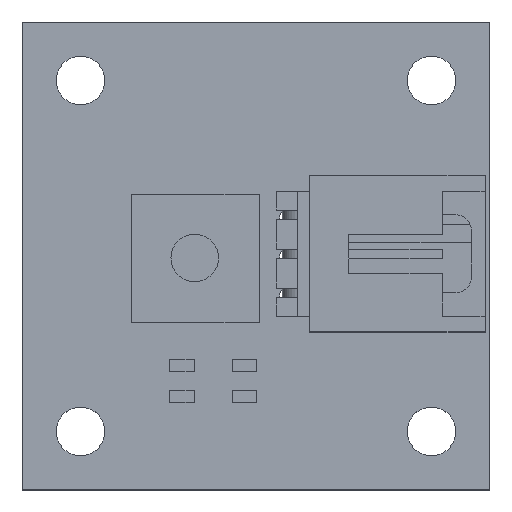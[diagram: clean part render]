
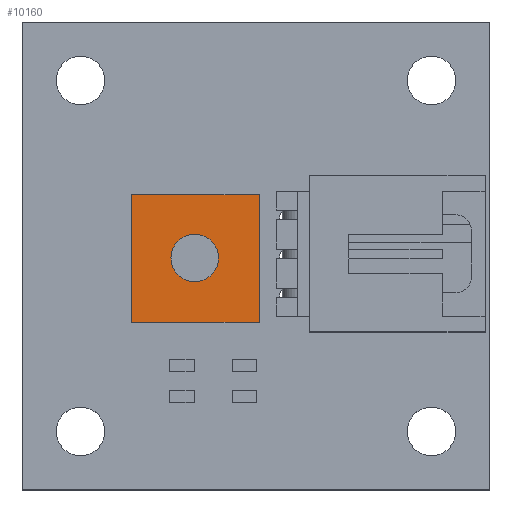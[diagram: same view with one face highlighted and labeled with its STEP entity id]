
A CAD part, top view. The second image highlights one B-rep face of the part: STEP entity #10160.
In plain terms, the highlighted planar face has unit normal (0, 0, 1).
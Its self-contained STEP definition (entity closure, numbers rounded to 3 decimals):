
#9846 = VERTEX_POINT('',#9847);
#9847 = CARTESIAN_POINT('',(-4.15,4.15,4.6));
#9854 = PLANE('',#9855);
#9855 = AXIS2_PLACEMENT_3D('',#9856,#9857,#9858);
#9856 = CARTESIAN_POINT('',(-4.15,4.15,0.));
#9857 = DIRECTION('',(0.,1.,0.));
#9858 = DIRECTION('',(1.,0.,0.));
#9866 = PLANE('',#9867);
#9867 = AXIS2_PLACEMENT_3D('',#9868,#9869,#9870);
#9868 = CARTESIAN_POINT('',(-4.15,-4.15,0.));
#9869 = DIRECTION('',(-1.,0.,0.));
#9870 = DIRECTION('',(0.,1.,0.));
#9878 = EDGE_CURVE('',#9846,#9879,#9881,.T.);
#9879 = VERTEX_POINT('',#9880);
#9880 = CARTESIAN_POINT('',(4.15,4.15,4.6));
#9881 = SURFACE_CURVE('',#9882,(#9886,#9893),.PCURVE_S1.);
#9882 = LINE('',#9883,#9884);
#9883 = CARTESIAN_POINT('',(-4.15,4.15,4.6));
#9884 = VECTOR('',#9885,1.);
#9885 = DIRECTION('',(1.,0.,0.));
#9886 = PCURVE('',#9854,#9887);
#9887 = DEFINITIONAL_REPRESENTATION('',(#9888),#9892);
#9888 = LINE('',#9889,#9890);
#9889 = CARTESIAN_POINT('',(0.,-4.6));
#9890 = VECTOR('',#9891,1.);
#9891 = DIRECTION('',(1.,0.));
#9892 = ( GEOMETRIC_REPRESENTATION_CONTEXT(2) 
PARAMETRIC_REPRESENTATION_CONTEXT() REPRESENTATION_CONTEXT('2D SPACE',''
  ) );
#9893 = PCURVE('',#9894,#9899);
#9894 = PLANE('',#9895);
#9895 = AXIS2_PLACEMENT_3D('',#9896,#9897,#9898);
#9896 = CARTESIAN_POINT('',(-4.15,4.15,4.6));
#9897 = DIRECTION('',(0.,0.,1.));
#9898 = DIRECTION('',(1.,0.,0.));
#9899 = DEFINITIONAL_REPRESENTATION('',(#9900),#9904);
#9900 = LINE('',#9901,#9902);
#9901 = CARTESIAN_POINT('',(0.,0.));
#9902 = VECTOR('',#9903,1.);
#9903 = DIRECTION('',(1.,0.));
#9904 = ( GEOMETRIC_REPRESENTATION_CONTEXT(2) 
PARAMETRIC_REPRESENTATION_CONTEXT() REPRESENTATION_CONTEXT('2D SPACE',''
  ) );
#9922 = PLANE('',#9923);
#9923 = AXIS2_PLACEMENT_3D('',#9924,#9925,#9926);
#9924 = CARTESIAN_POINT('',(4.15,4.15,0.));
#9925 = DIRECTION('',(1.,0.,0.));
#9926 = DIRECTION('',(0.,-1.,0.));
#9964 = EDGE_CURVE('',#9879,#9965,#9967,.T.);
#9965 = VERTEX_POINT('',#9966);
#9966 = CARTESIAN_POINT('',(4.15,-4.15,4.6));
#9967 = SURFACE_CURVE('',#9968,(#9972,#9979),.PCURVE_S1.);
#9968 = LINE('',#9969,#9970);
#9969 = CARTESIAN_POINT('',(4.15,4.15,4.6));
#9970 = VECTOR('',#9971,1.);
#9971 = DIRECTION('',(0.,-1.,0.));
#9972 = PCURVE('',#9922,#9973);
#9973 = DEFINITIONAL_REPRESENTATION('',(#9974),#9978);
#9974 = LINE('',#9975,#9976);
#9975 = CARTESIAN_POINT('',(0.,-4.6));
#9976 = VECTOR('',#9977,1.);
#9977 = DIRECTION('',(1.,0.));
#9978 = ( GEOMETRIC_REPRESENTATION_CONTEXT(2) 
PARAMETRIC_REPRESENTATION_CONTEXT() REPRESENTATION_CONTEXT('2D SPACE',''
  ) );
#9979 = PCURVE('',#9894,#9980);
#9980 = DEFINITIONAL_REPRESENTATION('',(#9981),#9985);
#9981 = LINE('',#9982,#9983);
#9982 = CARTESIAN_POINT('',(8.3,0.));
#9983 = VECTOR('',#9984,1.);
#9984 = DIRECTION('',(0.,-1.));
#9985 = ( GEOMETRIC_REPRESENTATION_CONTEXT(2) 
PARAMETRIC_REPRESENTATION_CONTEXT() REPRESENTATION_CONTEXT('2D SPACE',''
  ) );
#10003 = PLANE('',#10004);
#10004 = AXIS2_PLACEMENT_3D('',#10005,#10006,#10007);
#10005 = CARTESIAN_POINT('',(4.15,-4.15,0.));
#10006 = DIRECTION('',(0.,-1.,0.));
#10007 = DIRECTION('',(-1.,0.,0.));
#10040 = EDGE_CURVE('',#9965,#10041,#10043,.T.);
#10041 = VERTEX_POINT('',#10042);
#10042 = CARTESIAN_POINT('',(-4.15,-4.15,4.6));
#10043 = SURFACE_CURVE('',#10044,(#10048,#10055),.PCURVE_S1.);
#10044 = LINE('',#10045,#10046);
#10045 = CARTESIAN_POINT('',(4.15,-4.15,4.6));
#10046 = VECTOR('',#10047,1.);
#10047 = DIRECTION('',(-1.,0.,0.));
#10048 = PCURVE('',#10003,#10049);
#10049 = DEFINITIONAL_REPRESENTATION('',(#10050),#10054);
#10050 = LINE('',#10051,#10052);
#10051 = CARTESIAN_POINT('',(0.,-4.6));
#10052 = VECTOR('',#10053,1.);
#10053 = DIRECTION('',(1.,0.));
#10054 = ( GEOMETRIC_REPRESENTATION_CONTEXT(2) 
PARAMETRIC_REPRESENTATION_CONTEXT() REPRESENTATION_CONTEXT('2D SPACE',''
  ) );
#10055 = PCURVE('',#9894,#10056);
#10056 = DEFINITIONAL_REPRESENTATION('',(#10057),#10061);
#10057 = LINE('',#10058,#10059);
#10058 = CARTESIAN_POINT('',(8.3,-8.3));
#10059 = VECTOR('',#10060,1.);
#10060 = DIRECTION('',(-1.,0.));
#10061 = ( GEOMETRIC_REPRESENTATION_CONTEXT(2) 
PARAMETRIC_REPRESENTATION_CONTEXT() REPRESENTATION_CONTEXT('2D SPACE',''
  ) );
#10111 = EDGE_CURVE('',#10041,#9846,#10112,.T.);
#10112 = SURFACE_CURVE('',#10113,(#10117,#10124),.PCURVE_S1.);
#10113 = LINE('',#10114,#10115);
#10114 = CARTESIAN_POINT('',(-4.15,-4.15,4.6));
#10115 = VECTOR('',#10116,1.);
#10116 = DIRECTION('',(0.,1.,0.));
#10117 = PCURVE('',#9866,#10118);
#10118 = DEFINITIONAL_REPRESENTATION('',(#10119),#10123);
#10119 = LINE('',#10120,#10121);
#10120 = CARTESIAN_POINT('',(0.,-4.6));
#10121 = VECTOR('',#10122,1.);
#10122 = DIRECTION('',(1.,0.));
#10123 = ( GEOMETRIC_REPRESENTATION_CONTEXT(2) 
PARAMETRIC_REPRESENTATION_CONTEXT() REPRESENTATION_CONTEXT('2D SPACE',''
  ) );
#10124 = PCURVE('',#9894,#10125);
#10125 = DEFINITIONAL_REPRESENTATION('',(#10126),#10130);
#10126 = LINE('',#10127,#10128);
#10127 = CARTESIAN_POINT('',(0.,-8.3));
#10128 = VECTOR('',#10129,1.);
#10129 = DIRECTION('',(0.,1.));
#10130 = ( GEOMETRIC_REPRESENTATION_CONTEXT(2) 
PARAMETRIC_REPRESENTATION_CONTEXT() REPRESENTATION_CONTEXT('2D SPACE',''
  ) );
#10160 = ADVANCED_FACE('',(#10161),#9894,.T.);
#10161 = FACE_BOUND('',#10162,.F.);
#10162 = EDGE_LOOP('',(#10163,#10164,#10165,#10166));
#10163 = ORIENTED_EDGE('',*,*,#9878,.T.);
#10164 = ORIENTED_EDGE('',*,*,#9964,.T.);
#10165 = ORIENTED_EDGE('',*,*,#10040,.T.);
#10166 = ORIENTED_EDGE('',*,*,#10111,.T.);
